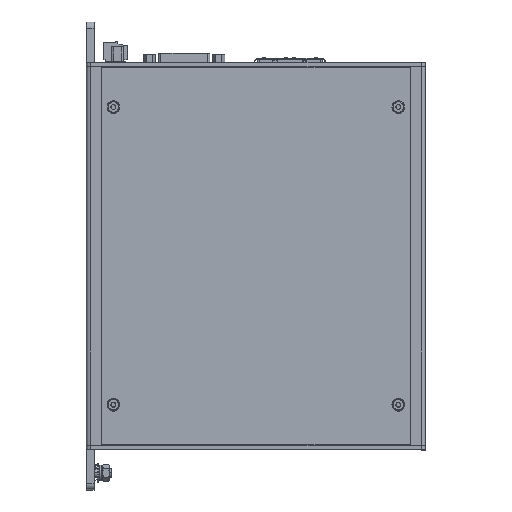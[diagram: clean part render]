
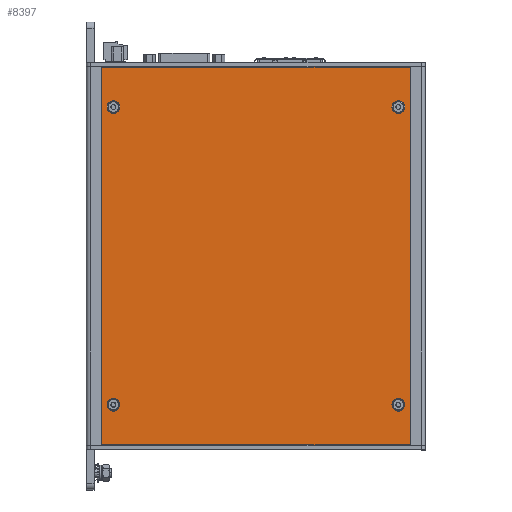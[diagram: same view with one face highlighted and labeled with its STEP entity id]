
A CAD part, top view. The second image highlights one B-rep face of the part: STEP entity #8397.
In plain terms, the highlighted planar face has unit normal (0, 0, 1).
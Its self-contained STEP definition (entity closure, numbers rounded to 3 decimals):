
#8207=DIRECTION('',(0.,-1.,0.));
#8208=VECTOR('',#8207,177.6);
#8209=CARTESIAN_POINT('',(66.3,88.3,46.2));
#8210=LINE('',#8209,#8208);
#8211=DIRECTION('',(-1.,0.,0.));
#8212=VECTOR('',#8211,145.1);
#8213=CARTESIAN_POINT('',(66.3,-89.3,46.2));
#8214=LINE('',#8213,#8212);
#8215=DIRECTION('',(0.,1.,0.));
#8216=VECTOR('',#8215,177.6);
#8217=CARTESIAN_POINT('',(-78.8,-89.3,46.2));
#8218=LINE('',#8217,#8216);
#8219=DIRECTION('',(1.,0.,0.));
#8220=VECTOR('',#8219,145.1);
#8221=CARTESIAN_POINT('',(-78.8,88.3,46.2));
#8222=LINE('',#8221,#8220);
#8223=CARTESIAN_POINT('',(-73.25,69.5,46.2));
#8224=DIRECTION('',(0.,0.,1.));
#8225=DIRECTION('',(0.,1.,0.));
#8226=AXIS2_PLACEMENT_3D('',#8223,#8224,#8225);
#8228=CARTESIAN_POINT('',(-73.25,69.5,46.2));
#8229=DIRECTION('',(0.,0.,1.));
#8230=DIRECTION('',(0.,-1.,0.));
#8231=AXIS2_PLACEMENT_3D('',#8228,#8229,#8230);
#8233=CARTESIAN_POINT('',(-73.25,-70.5,46.2));
#8234=DIRECTION('',(0.,0.,1.));
#8235=DIRECTION('',(0.,1.,0.));
#8236=AXIS2_PLACEMENT_3D('',#8233,#8234,#8235);
#8238=CARTESIAN_POINT('',(-73.25,-70.5,46.2));
#8239=DIRECTION('',(0.,0.,1.));
#8240=DIRECTION('',(0.,-1.,0.));
#8241=AXIS2_PLACEMENT_3D('',#8238,#8239,#8240);
#8243=CARTESIAN_POINT('',(60.75,69.5,46.2));
#8244=DIRECTION('',(0.,0.,1.));
#8245=DIRECTION('',(0.,1.,0.));
#8246=AXIS2_PLACEMENT_3D('',#8243,#8244,#8245);
#8248=CARTESIAN_POINT('',(60.75,69.5,46.2));
#8249=DIRECTION('',(0.,0.,1.));
#8250=DIRECTION('',(0.,-1.,0.));
#8251=AXIS2_PLACEMENT_3D('',#8248,#8249,#8250);
#8253=CARTESIAN_POINT('',(60.75,-70.5,46.2));
#8254=DIRECTION('',(0.,0.,1.));
#8255=DIRECTION('',(0.,1.,0.));
#8256=AXIS2_PLACEMENT_3D('',#8253,#8254,#8255);
#8258=CARTESIAN_POINT('',(60.75,-70.5,46.2));
#8259=DIRECTION('',(0.,0.,1.));
#8260=DIRECTION('',(0.,-1.,0.));
#8261=AXIS2_PLACEMENT_3D('',#8258,#8259,#8260);
#8267=CARTESIAN_POINT('',(66.3,-89.3,46.2));
#8268=CARTESIAN_POINT('',(66.3,88.3,46.2));
#8269=VERTEX_POINT('',#8267);
#8270=VERTEX_POINT('',#8268);
#8275=CARTESIAN_POINT('',(-78.8,-89.3,46.2));
#8276=CARTESIAN_POINT('',(-78.8,88.3,46.2));
#8277=VERTEX_POINT('',#8275);
#8278=VERTEX_POINT('',#8276);
#8295=CARTESIAN_POINT('',(-73.25,66.5,46.2));
#8296=CARTESIAN_POINT('',(-73.25,72.5,46.2));
#8297=VERTEX_POINT('',#8295);
#8298=VERTEX_POINT('',#8296);
#8299=CARTESIAN_POINT('',(-73.25,-73.5,46.2));
#8300=CARTESIAN_POINT('',(-73.25,-67.5,46.2));
#8301=VERTEX_POINT('',#8299);
#8302=VERTEX_POINT('',#8300);
#8303=CARTESIAN_POINT('',(60.75,66.5,46.2));
#8304=CARTESIAN_POINT('',(60.75,72.5,46.2));
#8305=VERTEX_POINT('',#8303);
#8306=VERTEX_POINT('',#8304);
#8307=CARTESIAN_POINT('',(60.75,-73.5,46.2));
#8308=CARTESIAN_POINT('',(60.75,-67.5,46.2));
#8309=VERTEX_POINT('',#8307);
#8310=VERTEX_POINT('',#8308);
#8358=CARTESIAN_POINT('',(66.3,-89.3,46.2));
#8359=DIRECTION('',(0.,0.,1.));
#8360=DIRECTION('',(0.,1.,0.));
#8361=AXIS2_PLACEMENT_3D('',#8358,#8359,#8360);
#8362=PLANE('',#8361);
#8364=ORIENTED_EDGE('',*,*,#8363,.T.);
#8366=ORIENTED_EDGE('',*,*,#8365,.T.);
#8368=ORIENTED_EDGE('',*,*,#8367,.T.);
#8370=ORIENTED_EDGE('',*,*,#8369,.T.);
#8371=EDGE_LOOP('',(#8364,#8366,#8368,#8370));
#8372=FACE_OUTER_BOUND('',#8371,.F.);
#8374=ORIENTED_EDGE('',*,*,#8373,.T.);
#8376=ORIENTED_EDGE('',*,*,#8375,.T.);
#8377=EDGE_LOOP('',(#8374,#8376));
#8378=FACE_BOUND('',#8377,.F.);
#8380=ORIENTED_EDGE('',*,*,#8379,.T.);
#8382=ORIENTED_EDGE('',*,*,#8381,.T.);
#8383=EDGE_LOOP('',(#8380,#8382));
#8384=FACE_BOUND('',#8383,.F.);
#8386=ORIENTED_EDGE('',*,*,#8385,.T.);
#8388=ORIENTED_EDGE('',*,*,#8387,.T.);
#8389=EDGE_LOOP('',(#8386,#8388));
#8390=FACE_BOUND('',#8389,.F.);
#8392=ORIENTED_EDGE('',*,*,#8391,.T.);
#8394=ORIENTED_EDGE('',*,*,#8393,.T.);
#8395=EDGE_LOOP('',(#8392,#8394));
#8396=FACE_BOUND('',#8395,.F.);
#8227=CIRCLE('',#8226,3.);
#8232=CIRCLE('',#8231,3.);
#8237=CIRCLE('',#8236,3.);
#8242=CIRCLE('',#8241,3.);
#8247=CIRCLE('',#8246,3.);
#8252=CIRCLE('',#8251,3.);
#8257=CIRCLE('',#8256,3.);
#8262=CIRCLE('',#8261,3.);
#8363=EDGE_CURVE('',#8270,#8269,#8210,.T.);
#8365=EDGE_CURVE('',#8269,#8277,#8214,.T.);
#8367=EDGE_CURVE('',#8277,#8278,#8218,.T.);
#8369=EDGE_CURVE('',#8278,#8270,#8222,.T.);
#8373=EDGE_CURVE('',#8298,#8297,#8227,.T.);
#8375=EDGE_CURVE('',#8297,#8298,#8232,.T.);
#8379=EDGE_CURVE('',#8302,#8301,#8237,.T.);
#8381=EDGE_CURVE('',#8301,#8302,#8242,.T.);
#8385=EDGE_CURVE('',#8306,#8305,#8247,.T.);
#8387=EDGE_CURVE('',#8305,#8306,#8252,.T.);
#8391=EDGE_CURVE('',#8310,#8309,#8257,.T.);
#8393=EDGE_CURVE('',#8309,#8310,#8262,.T.);
#8397=ADVANCED_FACE('',(#8372,#8378,#8384,#8390,#8396),#8362,.T.);
